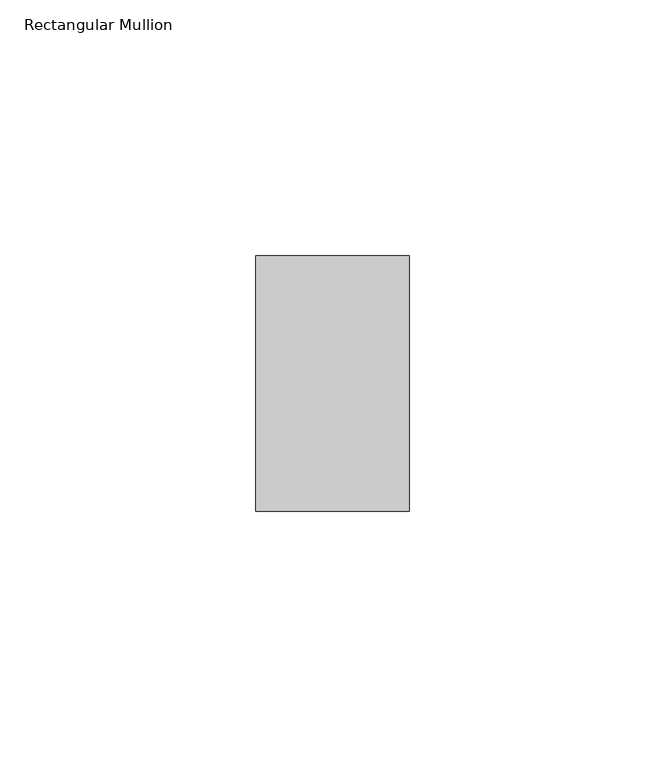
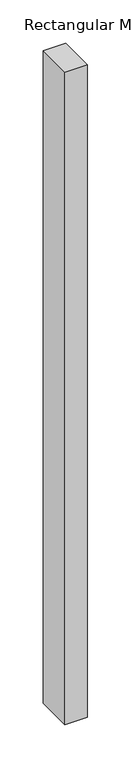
"""IFC4 building model written with IfcOpenShell, lengths in millimetres: member geometry, Rectangular Mullion : ARQ_TV_MULL_50x30mm."""

from ifc_helpers import new_model, si_unit, frame, origin, place, context, project, spatial, polyline, outline, extrude, source, transform, mapped, element, save


def rectangular_mullion_795f11c4(model_context):
    return source(origin(), model_context, "Body", "SweptSolid", [
        extrude(outline(polyline([(0.0, 25.0), (0.0, -25.0), (-30.0, -25.0), (-30.0, 25.0), (0.0, 25.0)])), frame((0.0, 0.0, -920.2043467), z_axis=(0.0, 0.0, 1.0), x_axis=(1.0, 0.0, 0.0)), (0.0, 0.0, 1.0), 920.2043467),
    ])


if __name__ == "__main__":
    model = new_model("IFC4")
    model_context = context("Model", 3, world=origin())
    ifc_project = project(units=[si_unit("LENGTHUNIT", "METRE", prefix="MILLI")], contexts=[model_context])
    site = spatial("IfcSite", under=ifc_project)
    building = spatial("IfcBuilding", under=site)
    placement = place(None, origin())
    rectangular_mullion_shape = rectangular_mullion_795f11c4(model_context)
    element("IfcMember", 1, ObjectType="Rectangular Mullion : ARQ_TV_MULL_50x30mm", at=placement, inside=building, context=model_context, shape_type="MappedRepresentation", body=[
        mapped(rectangular_mullion_shape, transform((0.0, 0.0, 0.0), x_axis=(1.0, 0.0, 0.0), y_axis=(0.0, 1.0, 0.0), z_axis=(0.0, 0.0, 1.0))),
    ])
    save(model, "model.ifc")
